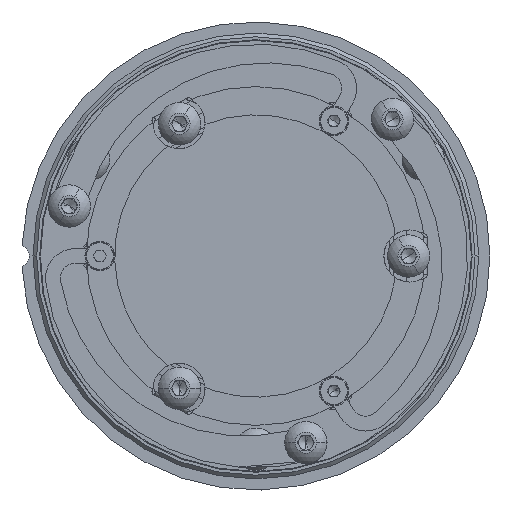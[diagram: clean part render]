
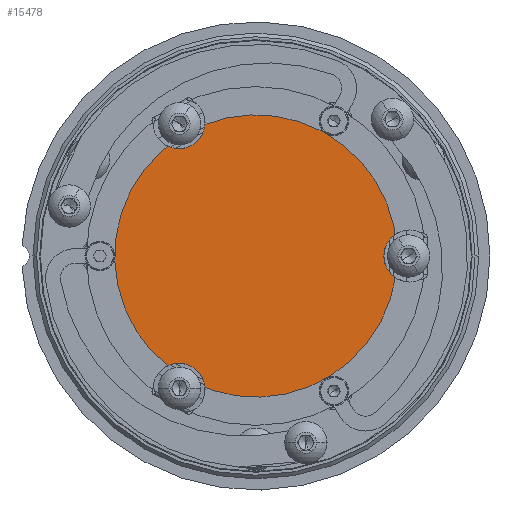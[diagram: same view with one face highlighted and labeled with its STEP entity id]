
A CAD part, front view. The second image highlights one B-rep face of the part: STEP entity #15478.
In plain terms, the highlighted planar face has unit normal (0, -1, 0).
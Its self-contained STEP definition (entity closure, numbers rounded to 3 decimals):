
#834 = CARTESIAN_POINT ( 'NONE',  ( -14.111, -5.3, -12.723 ) ) ;
#837 = CARTESIAN_POINT ( 'NONE',  ( 14.111, -5.3, 12.723 ) ) ;
#1823 = CIRCLE ( 'NONE', #1832, 19. ) ;
#1831 = CIRCLE ( 'NONE', #1837, 19. ) ;
#1832 = AXIS2_PLACEMENT_3D ( 'NONE', #7456, #7457, #7458 ) ;
#1837 = AXIS2_PLACEMENT_3D ( 'NONE', #7465, #7466, #7467 ) ;
#2771 = EDGE_LOOP ( 'NONE', ( #9786, #9787 ) ) ;
#4937 = VERTEX_POINT ( 'NONE', #834 ) ;
#4942 = VERTEX_POINT ( 'NONE', #837 ) ;
#7456 = CARTESIAN_POINT ( 'NONE',  ( 0., -5.3, 0. ) ) ;
#7457 = DIRECTION ( 'NONE',  ( 0., -1., 0. ) ) ;
#7458 = DIRECTION ( 'NONE',  ( -0.743, 0., -0.67 ) ) ;
#7465 = CARTESIAN_POINT ( 'NONE',  ( 0., -5.3, 0. ) ) ;
#7466 = DIRECTION ( 'NONE',  ( 0., -1., 0. ) ) ;
#7467 = DIRECTION ( 'NONE',  ( -0.743, 0., -0.67 ) ) ;
#8185 = EDGE_CURVE ( 'NONE', #4937, #4942, #1823, .T. ) ;
#8188 = EDGE_CURVE ( 'NONE', #4942, #4937, #1831, .T. ) ;
#9786 = ORIENTED_EDGE ( 'NONE', *, *, #8188, .T. ) ;
#9787 = ORIENTED_EDGE ( 'NONE', *, *, #8185, .T. ) ;
#11712 = FACE_OUTER_BOUND ( 'NONE', #2771, .T. ) ;
#11713 = PLANE ( 'NONE',  #11978 ) ;
#11723 = CARTESIAN_POINT ( 'NONE',  ( 0., -5.3, 0. ) ) ;
#11724 = DIRECTION ( 'NONE',  ( 0., -1., 0. ) ) ;
#11725 = DIRECTION ( 'NONE',  ( -0.743, 0., -0.67 ) ) ;
#11978 = AXIS2_PLACEMENT_3D ( 'NONE', #11723, #11724, #11725 ) ;
#15478 = ADVANCED_FACE ( 'NONE', ( #11712 ), #11713, .T. ) ;
